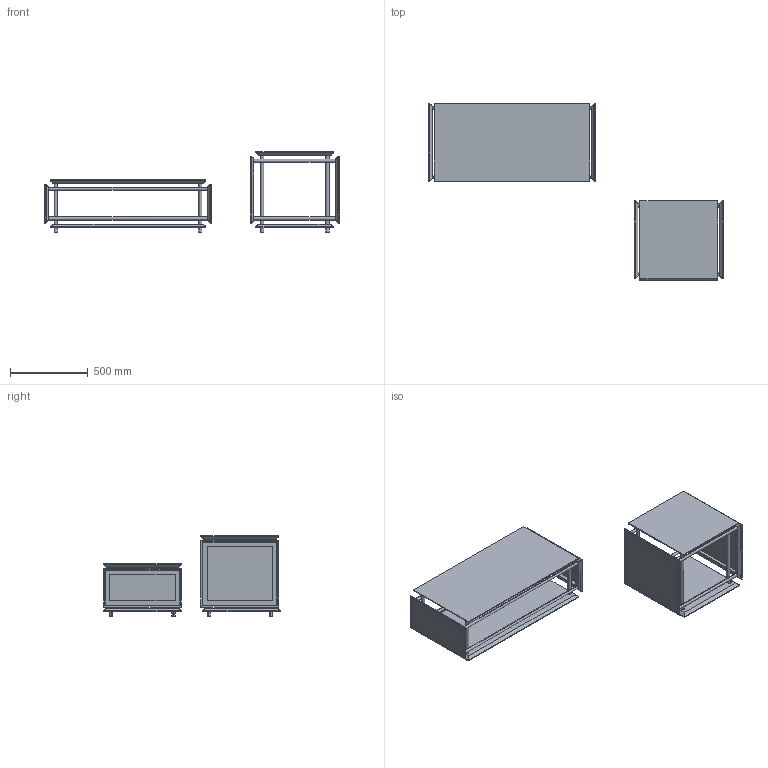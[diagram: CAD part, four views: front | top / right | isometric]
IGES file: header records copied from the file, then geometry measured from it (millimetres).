
Global section: file name: \\192.168.4.99\ufficio_tecnico\51-3d_2d prodotti 2018\wiener box 3d_2d\wiener box 3d.igs; native system: Rhinoceros ( May 22 2017 ); preprocessor: Trout Lake IGES 012 May 22 2017; date: 180516.080858; units: millimetre
Bounding box: 1893.5 x 1138.08 x 518 mm (x, y, z)
Surface area: 6355177.2 mm2 (no closed solid volume)
Topology: 0 solids, 0 shells, 532 faces, 6024 edges, 5926 vertices
Faces by surface type: bspline 532
